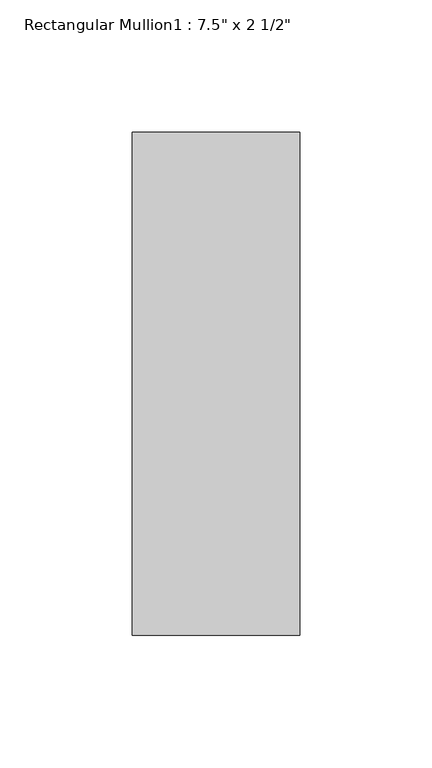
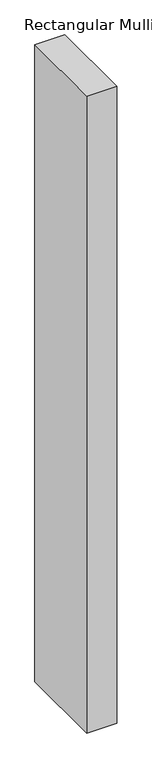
"""IFC4 building model written with IfcOpenShell, lengths in millimetres: member geometry."""

from ifc_helpers import new_model, si_unit, frame, origin, place, context, project, spatial, polyline, outline, extrude, source, transform, mapped, element, save


def member_4d682a47(model_context):
    return source(origin(), model_context, "Body", "SweptSolid", [
        extrude(outline(polyline([(0.0, 165.1), (0.0, -25.4), (-63.5, -25.4), (-63.5, 165.1), (0.0, 165.1)])), frame((0.0, 0.0, -1428.75), z_axis=(0.0, 0.0, 1.0), x_axis=(1.0, 0.0, 0.0)), (0.0, 0.0, 1.0), 1428.75),
    ])


if __name__ == "__main__":
    model = new_model("IFC4")
    model_context = context("Model", 3, world=origin())
    ifc_project = project(units=[si_unit("LENGTHUNIT", "METRE", prefix="MILLI")], contexts=[model_context])
    site = spatial("IfcSite", under=ifc_project)
    building = spatial("IfcBuilding", under=site)
    placement = place(None, origin())
    member_shape = member_4d682a47(model_context)
    element("IfcMember", 1, ObjectType="Rectangular Mullion1 : 7.5\" x 2 1/2\"", at=placement, inside=building, context=model_context, shape_type="MappedRepresentation", body=[
        mapped(member_shape, transform((0.0, 0.0, 0.0), x_axis=(1.0, 0.0, 0.0), y_axis=(0.0, 1.0, 0.0), z_axis=(0.0, 0.0, 1.0))),
    ])
    save(model, "model.ifc")
